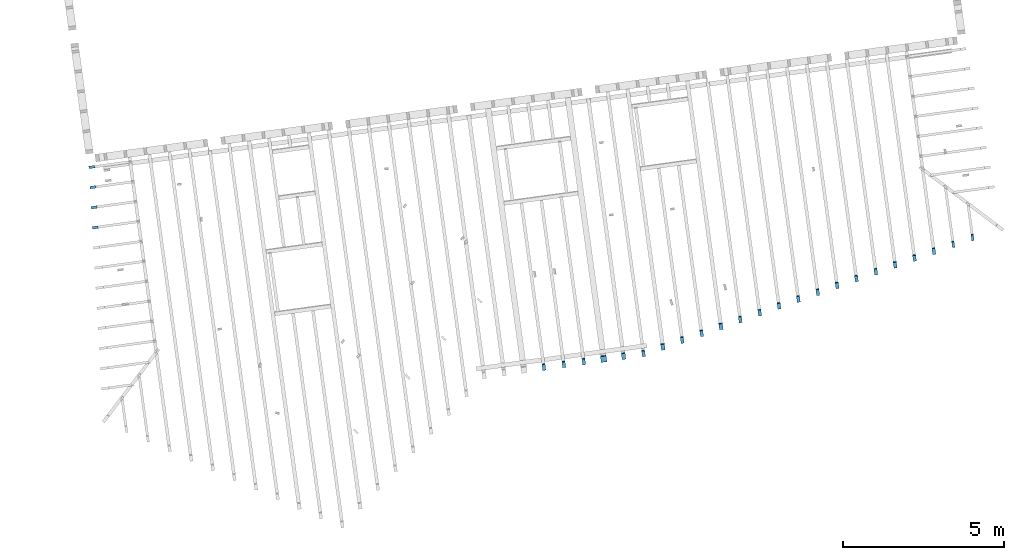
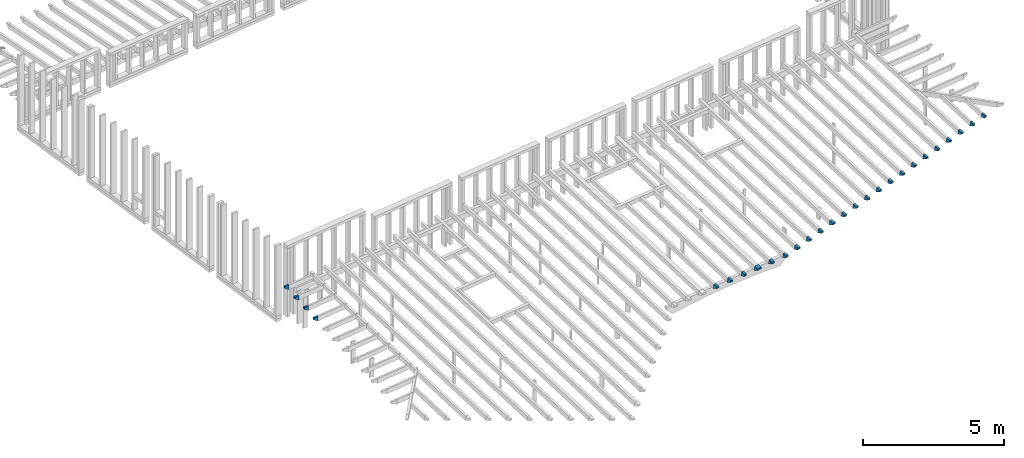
# One storey, part 13 of 16: 27 building element parts, 27 elements without a shape of their own.
"""IFC2X3 building model written with IfcOpenShell, lengths in metres."""

from ifc_helpers import new_model, entity, si_unit, converted_unit, derived_unit, money_unit, direction, frame, origin_with_axes, place, context, subcontext, project, spatial, faceted_brep, material, type_object, element, aggregate, save


model = new_model("IFC2X3")

# Units and contexts
model_context = context("Model", 3, precision=1e-05, world=origin_with_axes(), true_north=direction((0.0, 1.0)))
body_context = subcontext(model_context, "Body", "Model", "MODEL_VIEW")
ifc_project = project(units=[si_unit("LENGTHUNIT", "METRE"), si_unit("AREAUNIT", "SQUARE_METRE"), si_unit("VOLUMEUNIT", "CUBIC_METRE"), converted_unit("PLANEANGLEUNIT", "DEGREE", entity("IfcPlaneAngleMeasure", 0.0174532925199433), si_unit("PLANEANGLEUNIT", "RADIAN"), dimensions=[0, 0, 0, 0, 0, 0, 0]), money_unit("EUR"), converted_unit("TIMEUNIT", "Year", entity("IfcTimeMeasure", 31557600.0), si_unit("TIMEUNIT", "SECOND"), dimensions=[0, 0, 1, 0, 0, 0, 0]), si_unit("MASSUNIT", "GRAM", prefix="KILO"), si_unit("THERMODYNAMICTEMPERATUREUNIT", "DEGREE_CELSIUS"), si_unit("LUMINOUSINTENSITYUNIT", "LUMEN"), si_unit("ENERGYUNIT", "JOULE", prefix="MEGA"), derived_unit("THERMALCONDUCTANCEUNIT", [(si_unit("POWERUNIT", "WATT"), 1), (si_unit("LENGTHUNIT", "METRE"), -1), (si_unit("THERMODYNAMICTEMPERATUREUNIT", "KELVIN"), -1)]), derived_unit("SPECIFICHEATCAPACITYUNIT", [(si_unit("ENERGYUNIT", "JOULE"), 1), (si_unit("MASSUNIT", "GRAM", prefix="KILO"), -1), (si_unit("THERMODYNAMICTEMPERATUREUNIT", "KELVIN"), -1)]), derived_unit("MASSDENSITYUNIT", [(si_unit("MASSUNIT", "GRAM", prefix="KILO"), 1), (si_unit("VOLUMEUNIT", "CUBIC_METRE"), -1)])], contexts=[model_context])

# Site, building, storey
site_placement = place(None, origin_with_axes())
site = spatial("IfcSite", under=ifc_project, at=site_placement, Name="Gelände", CompositionType="ELEMENT")
building_placement = place(site_placement, origin_with_axes())
building = spatial("IfcBuilding", under=site, at=building_placement, Name="Gebäude", CompositionType="ELEMENT")
storey_placement = place(building_placement, frame((0.0, 0.0, 3.0), z_axis=(0.0, 0.0, 1.0), x_axis=(1.0, 0.0, 0.0)))
storey = spatial("IfcBuildingStorey", under=building, at=storey_placement, Name="ZG", CompositionType="ELEMENT", Elevation=3.0)

# Beam, building element part
beam_type_1 = type_object("IfcBeamType", Name="Verschiedene Strukturen - 2 Segmente - 80 x 200 x 1447 (182+1264)", PredefinedType="NOTDEFINED")
beam_1_placement = place(storey_placement, frame((86.62140149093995, -152.5379371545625, 1.629738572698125), z_axis=(0.0, 0.0, 1.0), x_axis=(0.1357118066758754, -0.9907483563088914, 0.0)))
beam_1 = element("IfcBeam", 1, at=beam_1_placement, inside=storey, type_object=beam_type_1, Name="Unterzug-034")
ifc_material = material(Name="Holz, Bauholz-hart")
building_element_part_1_placement = place(beam_1_placement, origin_with_axes())
building_element_part_1 = element("IfcBuildingElementPart", 2, at=building_element_part_1_placement, material=ifc_material, Name="Holz, Bauholz-hart", context=body_context, shape_type="Brep", body=[
    faceted_brep([(0.04000000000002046, 0.1824875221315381, -0.2000000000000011), (0.04000000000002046, 0.0, -0.0799999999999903), (-0.03999999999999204, 0.0, -0.0799999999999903), (-0.03999999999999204, 0.1824875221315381, -0.2000000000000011), (0.04000000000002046, 0.1824875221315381, 0.0), (0.04000000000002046, 0.0, 0.0), (-0.03999999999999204, 0.0, 0.0), (-0.03999999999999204, 0.1824875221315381, 0.0)], [[[0, 1, 2, 3]], [[4, 5, 1, 0]], [[5, 6, 2, 1]], [[3, 2, 6, 7]], [[4, 0, 3, 7]], [[7, 6, 5, 4]]]),
])
aggregate(beam_1, [building_element_part_1])

beam_type_2 = type_object("IfcBeamType", Name="Verschiedene Strukturen - 2 Segmente - 100 x 200 x 5298 (183+5116)", PredefinedType="NOTDEFINED")
beam_2_placement = place(storey_placement, frame((100.7094401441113, -157.5921510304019, 0.6572859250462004), z_axis=(0.0, 0.0, 1.0), x_axis=(0.9907484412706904, 0.1357111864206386, 0.0)))
beam_2 = element("IfcBeam", 3, at=beam_2_placement, inside=storey, type_object=beam_type_2, Name="Unterzug-034")
building_element_part_2_placement = place(beam_2_placement, origin_with_axes())
building_element_part_2 = element("IfcBuildingElementPart", 4, at=building_element_part_2_placement, material=ifc_material, Name="Holz, Bauholz-hart", context=body_context, shape_type="Brep", body=[
    faceted_brep([(0.05000000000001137, 0.2085658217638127, -0.172653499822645), (0.04999999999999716, 0.01113384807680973, -0.07922144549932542), (-0.04999999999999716, 0.01113384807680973, -0.07922144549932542), (-0.05000000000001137, 0.2085658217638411, -0.172653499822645), (0.04999999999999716, 0.180731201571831, 0.02540011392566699), (0.05000000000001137, 0.0, 0.0), (-0.04999999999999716, 0.0, 0.0), (-0.04999999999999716, 0.180731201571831, 0.02540011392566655)], [[[0, 1, 2, 3]], [[4, 5, 1, 0]], [[5, 6, 2, 1]], [[3, 2, 6, 7]], [[4, 0, 3, 7]], [[7, 6, 5, 4]]]),
])
aggregate(beam_2, [building_element_part_2])

beam_type_3 = type_object("IfcBeamType", Name="Verschiedene Strukturen - 2 Segmente - 100 x 200 x 6565 (183+6383)", PredefinedType="NOTDEFINED")
beam_3_placement = place(storey_placement, frame((112.2308280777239, -154.2011051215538, 0.9097103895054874), z_axis=(0.0, 0.0, 1.0), x_axis=(0.9907484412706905, 0.1357111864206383, 0.0)))
beam_3 = element("IfcBeam", 5, at=beam_3_placement, inside=storey, type_object=beam_type_3, Name="Unterzug-034")
building_element_part_3_placement = place(beam_3_placement, origin_with_axes())
building_element_part_3 = element("IfcBuildingElementPart", 6, at=building_element_part_3_placement, material=ifc_material, Name="Holz, Bauholz-hart", context=body_context, shape_type="Brep", body=[
    faceted_brep([(0.04999999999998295, 0.2085613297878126, -0.1726541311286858), (0.04999999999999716, 0.01113384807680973, -0.07922144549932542), (-0.05000000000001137, 0.01113384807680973, -0.07922144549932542), (-0.04999999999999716, 0.2085613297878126, -0.1726541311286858), (0.04999999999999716, 0.1807267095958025, 0.02539948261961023), (0.04999999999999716, 0.0, 0.0), (-0.05000000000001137, 0.0, 0.0), (-0.04999999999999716, 0.1807267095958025, 0.02539948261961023)], [[[0, 1, 2, 3]], [[4, 5, 1, 0]], [[5, 6, 2, 1]], [[3, 2, 6, 7]], [[4, 0, 3, 7]], [[7, 6, 5, 4]]]),
])
aggregate(beam_3, [building_element_part_3])

beam_type_4 = type_object("IfcBeamType", Name="Verschiedene Strukturen - 2 Segmente - 100 x 200 x 6826 (183+6643)", PredefinedType="NOTDEFINED")
beam_4_placement = place(storey_placement, frame((111.0273840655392, -154.6261969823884, 0.8734735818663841), z_axis=(0.0, 0.0, 1.0), x_axis=(0.9907484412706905, 0.1357111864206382, 0.0)))
beam_4 = element("IfcBeam", 7, at=beam_4_placement, inside=storey, type_object=beam_type_4, Name="Unterzug-034")
building_element_part_4_placement = place(beam_4_placement, origin_with_axes())
building_element_part_4 = element("IfcBuildingElementPart", 8, at=building_element_part_4_placement, material=ifc_material, Name="Holz, Bauholz-hart", context=body_context, shape_type="Brep", body=[
    faceted_brep([(0.04999999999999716, 0.2085613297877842, -0.1726541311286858), (0.04999999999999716, 0.01113384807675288, -0.07922144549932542), (-0.05000000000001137, 0.01113384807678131, -0.07922144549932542), (-0.04999999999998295, 0.2085613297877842, -0.1726541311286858), (0.05000000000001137, 0.1807267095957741, 0.02539948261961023), (0.05000000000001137, 0.0, 0.0), (-0.05000000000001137, 0.0, 0.0), (-0.05000000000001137, 0.1807267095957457, 0.02539948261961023)], [[[0, 1, 2, 3]], [[4, 5, 1, 0]], [[5, 6, 2, 1]], [[3, 2, 6, 7]], [[4, 0, 3, 7]], [[7, 6, 5, 4]]]),
])
aggregate(beam_4, [building_element_part_4])

beam_type_5 = type_object("IfcBeamType", Name="Verschiedene Strukturen - 2 Segmente - 100 x 200 x 6696 (183+6513)", PredefinedType="NOTDEFINED")
beam_5_placement = place(storey_placement, frame((111.6291060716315, -154.4136510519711, 0.8915919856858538), z_axis=(0.0, 0.0, 1.0), x_axis=(0.9907484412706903, 0.1357111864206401, 0.0)))
beam_5 = element("IfcBeam", 9, at=beam_5_placement, inside=storey, type_object=beam_type_5, Name="Unterzug-034")
building_element_part_5_placement = place(beam_5_placement, origin_with_axes())
building_element_part_5 = element("IfcBuildingElementPart", 10, at=building_element_part_5_placement, material=ifc_material, Name="Holz, Bauholz-hart", context=body_context, shape_type="Brep", body=[
    faceted_brep([(0.04999999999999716, 0.208561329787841, -0.1726541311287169), (0.05000000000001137, 0.01113384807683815, -0.07922144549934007), (-0.05000000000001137, 0.01113384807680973, -0.07922144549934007), (-0.04999999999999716, 0.208561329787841, -0.1726541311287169), (0.04999999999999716, 0.1807267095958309, 0.02539948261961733), (0.05000000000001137, 0.0, 0.0), (-0.05000000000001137, 0.0, 0.0), (-0.05000000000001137, 0.1807267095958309, 0.02539948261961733)], [[[0, 1, 2, 3]], [[4, 5, 1, 0]], [[5, 6, 2, 1]], [[3, 2, 6, 7]], [[4, 0, 3, 7]], [[7, 6, 5, 4]]]),
])
aggregate(beam_5, [building_element_part_5])

beam_type_6 = type_object("IfcBeamType", Name="Verschiedene Strukturen - 2 Segmente - 100 x 200 x 6435 (183+6253)", PredefinedType="NOTDEFINED")
beam_6_placement = place(storey_placement, frame((112.8325500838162, -153.9885591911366, 0.9278287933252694), z_axis=(0.0, 0.0, 1.0), x_axis=(0.9907484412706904, 0.1357111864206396, 0.0)))
beam_6 = element("IfcBeam", 11, at=beam_6_placement, inside=storey, type_object=beam_type_6, Name="Unterzug-034")
building_element_part_6_placement = place(beam_6_placement, origin_with_axes())
building_element_part_6 = element("IfcBuildingElementPart", 12, at=building_element_part_6_placement, material=ifc_material, Name="Holz, Bauholz-hart", context=body_context, shape_type="Brep", body=[
    faceted_brep([(0.04999999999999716, 0.2085613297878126, -0.1726541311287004), (0.04999999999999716, 0.01113384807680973, -0.07922144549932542), (-0.05000000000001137, 0.01113384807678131, -0.07922144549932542), (-0.04999999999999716, 0.2085613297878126, -0.1726541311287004), (0.04999999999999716, 0.1807267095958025, 0.02539948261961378), (0.04999999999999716, 0.0, 0.0), (-0.04999999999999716, 0.0, 0.0), (-0.04999999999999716, 0.1807267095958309, 0.02539948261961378)], [[[0, 1, 2, 3]], [[4, 5, 1, 0]], [[5, 6, 2, 1]], [[3, 2, 6, 7]], [[4, 0, 3, 7]], [[7, 6, 5, 4]]]),
])
aggregate(beam_6, [building_element_part_6])

beam_type_7 = type_object("IfcBeamType", Name="Verschiedene Strukturen - 2 Segmente - 80 x 200 x 1968 (183+1786)", PredefinedType="NOTDEFINED")
beam_7_placement = place(storey_placement, frame((113.4342720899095, -153.776013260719, 0.9459471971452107), z_axis=(0.0, 0.0, 1.0), x_axis=(0.99074844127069, 0.1357111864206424, 0.0)))
beam_7 = element("IfcBeam", 13, at=beam_7_placement, inside=storey, type_object=beam_type_7, Name="Unterzug-034")
building_element_part_7_placement = place(beam_7_placement, origin_with_axes())
building_element_part_7 = element("IfcBuildingElementPart", 14, at=building_element_part_7_placement, material=ifc_material, Name="Holz, Bauholz-hart", context=body_context, shape_type="Brep", body=[
    faceted_brep([(0.03999999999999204, 0.2085613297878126, -0.172654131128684), (0.03999999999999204, 0.01113384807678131, -0.07922144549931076), (-0.04000000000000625, 0.01113384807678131, -0.07922144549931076), (-0.03999999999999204, 0.2085613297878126, -0.172654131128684), (0.03999999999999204, 0.1807267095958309, 0.02539948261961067), (0.03999999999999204, 0.0, 0.0), (-0.04000000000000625, 0.0, 0.0), (-0.03999999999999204, 0.1807267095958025, 0.02539948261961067)], [[[0, 1, 2, 3]], [[4, 5, 1, 0]], [[5, 6, 2, 1]], [[3, 2, 6, 7]], [[4, 0, 3, 7]], [[7, 6, 5, 4]]]),
])
aggregate(beam_7, [building_element_part_7])

beam_type_8 = type_object("IfcBeamType", Name="Verschiedene Strukturen - 2 Segmente - 100 x 200 x 6969 (183+6786)", PredefinedType="NOTDEFINED")
beam_8_placement = place(storey_placement, frame((110.4256620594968, -154.83874291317, 0.8553551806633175), z_axis=(0.0, 0.0, 1.0), x_axis=(0.9907484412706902, 0.1357111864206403, 0.0)))
beam_8 = element("IfcBeam", 15, at=beam_8_placement, inside=storey, type_object=beam_type_8, Name="Unterzug-034")
building_element_part_8_placement = place(beam_8_placement, origin_with_axes())
building_element_part_8 = element("IfcBuildingElementPart", 16, at=building_element_part_8_placement, material=ifc_material, Name="Holz, Bauholz-hart", context=body_context, shape_type="Brep", body=[
    faceted_brep([(0.04999999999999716, 0.208561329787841, -0.1726541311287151), (0.05000000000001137, 0.01113384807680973, -0.07922144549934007), (-0.05000000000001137, 0.01113384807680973, -0.07922144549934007), (-0.04999999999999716, 0.208561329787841, -0.1726541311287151), (0.04999999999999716, 0.1807267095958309, 0.02539948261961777), (0.05000000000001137, 0.0, 0.0), (-0.05000000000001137, 0.0, 0.0), (-0.04999999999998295, 0.1807267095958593, 0.02539948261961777)], [[[0, 1, 2, 3]], [[4, 5, 1, 0]], [[5, 6, 2, 1]], [[3, 2, 6, 7]], [[4, 0, 3, 7]], [[7, 6, 5, 4]]]),
])
aggregate(beam_8, [building_element_part_8])

beam_type_9 = type_object("IfcBeamType", Name="Verschiedene Strukturen - 2 Segmente - 100 x 200 x 7099 (183+6916)", PredefinedType="NOTDEFINED")
beam_9_placement = place(storey_placement, frame((109.8239400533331, -155.0512888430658, 0.8372367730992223), z_axis=(0.0, 0.0, 1.0), x_axis=(0.99074844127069, 0.135711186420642, 0.0)))
beam_9 = element("IfcBeam", 17, at=beam_9_placement, inside=storey, type_object=beam_type_9, Name="Unterzug-034")
building_element_part_9_placement = place(beam_9_placement, origin_with_axes())
building_element_part_9 = element("IfcBuildingElementPart", 18, at=building_element_part_9_placement, material=ifc_material, Name="Holz, Bauholz-hart", context=body_context, shape_type="Brep", body=[
    faceted_brep([(0.04999999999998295, 0.208561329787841, -0.1726541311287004), (0.04999999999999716, 0.01113384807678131, -0.07922144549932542), (-0.05000000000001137, 0.01113384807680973, -0.07922144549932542), (-0.05000000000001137, 0.208561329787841, -0.1726541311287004), (0.04999999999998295, 0.1807267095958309, 0.02539948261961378), (0.04999999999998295, 0.0, 0.0), (-0.05000000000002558, 0.0, 0.0), (-0.05000000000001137, 0.1807267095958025, 0.02539948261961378)], [[[0, 1, 2, 3]], [[4, 5, 1, 0]], [[5, 6, 2, 1]], [[3, 2, 6, 7]], [[4, 0, 3, 7]], [[7, 6, 5, 4]]]),
])
aggregate(beam_9, [building_element_part_9])

beam_type_10 = type_object("IfcBeamType", Name="Verschiedene Strukturen - 2 Segmente - 100 x 200 x 7359 (183+7177)", PredefinedType="NOTDEFINED")
beam_10_placement = place(storey_placement, frame((108.6204960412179, -155.4763807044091, 0.8009999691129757), z_axis=(0.0, 0.0, 1.0), x_axis=(0.9907484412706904, 0.1357111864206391, 0.0)))
beam_10 = element("IfcBeam", 19, at=beam_10_placement, inside=storey, type_object=beam_type_10, Name="Unterzug-034")
building_element_part_10_placement = place(beam_10_placement, origin_with_axes())
building_element_part_10 = element("IfcBuildingElementPart", 20, at=building_element_part_10_placement, material=ifc_material, Name="Holz, Bauholz-hart", context=body_context, shape_type="Brep", body=[
    faceted_brep([(0.04999999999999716, 0.2085613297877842, -0.172654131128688), (0.04999999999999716, 0.01113384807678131, -0.07922144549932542), (-0.04999999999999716, 0.01113384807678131, -0.07922144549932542), (-0.04999999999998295, 0.2085613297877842, -0.172654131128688), (0.05000000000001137, 0.1807267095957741, 0.02539948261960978), (0.05000000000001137, 0.0, 0.0), (-0.04999999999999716, 0.0, 0.0), (-0.04999999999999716, 0.1807267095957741, 0.02539948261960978)], [[[0, 1, 2, 3]], [[4, 5, 1, 0]], [[5, 6, 2, 1]], [[3, 2, 6, 7]], [[4, 0, 3, 7]], [[7, 6, 5, 4]]]),
])
aggregate(beam_10, [building_element_part_10])

beam_type_11 = type_object("IfcBeamType", Name="Verschiedene Strukturen - 2 Segmente - 100 x 200 x 7489 (183+7307)", PredefinedType="NOTDEFINED")
beam_11_placement = place(storey_placement, frame((108.0187740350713, -155.6889266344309, 0.782881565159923), z_axis=(0.0, 0.0, 1.0), x_axis=(0.9907484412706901, 0.1357111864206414, 0.0)))
beam_11 = element("IfcBeam", 21, at=beam_11_placement, inside=storey, type_object=beam_type_11, Name="Unterzug-034")
building_element_part_11_placement = place(beam_11_placement, origin_with_axes())
building_element_part_11 = element("IfcBuildingElementPart", 22, at=building_element_part_11_placement, material=ifc_material, Name="Holz, Bauholz-hart", context=body_context, shape_type="Brep", body=[
    faceted_brep([(0.04999999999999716, 0.2085613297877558, -0.1726541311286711), (0.05000000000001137, 0.01113384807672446, -0.07922144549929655), (-0.05000000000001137, 0.01113384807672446, -0.07922144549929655), (-0.05000000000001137, 0.2085613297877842, -0.1726541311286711), (0.04999999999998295, 0.1807267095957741, 0.02539948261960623), (0.04999999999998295, 0.0, 0.0), (-0.05000000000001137, 0.0, 0.0), (-0.05000000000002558, 0.1807267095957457, 0.02539948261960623)], [[[0, 1, 2, 3]], [[4, 5, 1, 0]], [[5, 6, 2, 1]], [[3, 2, 6, 7]], [[4, 0, 3, 7]], [[7, 6, 5, 4]]]),
])
aggregate(beam_11, [building_element_part_11])

beam_type_12 = type_object("IfcBeamType", Name="Verschiedene Strukturen - 2 Segmente - 100 x 200 x 7620 (183+7437)", PredefinedType="NOTDEFINED")
beam_12_placement = place(storey_placement, frame((107.4170520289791, -155.9014725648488, 0.7647631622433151), z_axis=(0.0, 0.0, 1.0), x_axis=(0.9907484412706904, 0.1357111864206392, 0.0)))
beam_12 = element("IfcBeam", 23, at=beam_12_placement, inside=storey, type_object=beam_type_12, Name="Unterzug-034")
building_element_part_12_placement = place(beam_12_placement, origin_with_axes())
building_element_part_12 = element("IfcBuildingElementPart", 24, at=building_element_part_12_placement, material=ifc_material, Name="Holz, Bauholz-hart", context=body_context, shape_type="Brep", body=[
    faceted_brep([(0.05000000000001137, 0.208561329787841, -0.1726541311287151), (0.05000000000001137, 0.01113384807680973, -0.07922144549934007), (-0.04999999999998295, 0.01113384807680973, -0.07922144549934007), (-0.04999999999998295, 0.208561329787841, -0.1726541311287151), (0.05000000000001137, 0.1807267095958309, 0.02539948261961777), (0.05000000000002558, 0.0, 0.0), (-0.04999999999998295, 0.0, 0.0), (-0.04999999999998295, 0.1807267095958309, 0.02539948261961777)], [[[0, 1, 2, 3]], [[4, 5, 1, 0]], [[5, 6, 2, 1]], [[3, 2, 6, 7]], [[4, 0, 3, 7]], [[7, 6, 5, 4]]]),
])
aggregate(beam_12, [building_element_part_12])

beam_type_13 = type_object("IfcBeamType", Name="Verschiedene Strukturen - 2 Segmente - 100 x 200 x 7750 (183+7567)", PredefinedType="NOTDEFINED")
beam_13_placement = place(storey_placement, frame((106.815330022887, -156.1140184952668, 0.7466447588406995), z_axis=(0.0, 0.0, 1.0), x_axis=(0.9907484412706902, 0.1357111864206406, 0.0)))
beam_13 = element("IfcBeam", 25, at=beam_13_placement, inside=storey, type_object=beam_type_13, Name="Unterzug-034")
building_element_part_13_placement = place(beam_13_placement, origin_with_axes())
building_element_part_13 = element("IfcBuildingElementPart", 26, at=building_element_part_13_placement, material=ifc_material, Name="Holz, Bauholz-hart", context=body_context, shape_type="Brep", body=[
    faceted_brep([(0.04999999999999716, 0.208561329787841, -0.1726541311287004), (0.04999999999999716, 0.01113384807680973, -0.07922144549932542), (-0.05000000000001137, 0.01113384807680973, -0.07922144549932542), (-0.05000000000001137, 0.208561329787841, -0.1726541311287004), (0.04999999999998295, 0.1807267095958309, 0.02539948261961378), (0.04999999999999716, 0.0, 0.0), (-0.04999999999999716, 0.0, 0.0), (-0.04999999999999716, 0.1807267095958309, 0.02539948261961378)], [[[0, 1, 2, 3]], [[4, 5, 1, 0]], [[5, 6, 2, 1]], [[3, 2, 6, 7]], [[4, 0, 3, 7]], [[7, 6, 5, 4]]]),
])
aggregate(beam_13, [building_element_part_13])

beam_type_14 = type_object("IfcBeamType", Name="Verschiedene Strukturen - 2 Segmente - 100 x 200 x 7229 (183+7046)", PredefinedType="NOTDEFINED")
beam_14_placement = place(storey_placement, frame((109.2222180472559, -155.2638347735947, 0.8191183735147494), z_axis=(0.0, 0.0, 1.0), x_axis=(0.9907484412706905, 0.1357111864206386, 0.0)))
beam_14 = element("IfcBeam", 27, at=beam_14_placement, inside=storey, type_object=beam_type_14, Name="Unterzug-034")
building_element_part_14_placement = place(beam_14_placement, origin_with_axes())
building_element_part_14 = element("IfcBuildingElementPart", 28, at=building_element_part_14_placement, material=ifc_material, Name="Holz, Bauholz-hart", context=body_context, shape_type="Brep", body=[
    faceted_brep([(0.04999999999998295, 0.2085613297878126, -0.1726541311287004), (0.04999999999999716, 0.01113384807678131, -0.07922144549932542), (-0.05000000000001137, 0.01113384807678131, -0.07922144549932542), (-0.05000000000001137, 0.208561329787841, -0.1726541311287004), (0.04999999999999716, 0.1807267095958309, 0.02539948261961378), (0.04999999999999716, 0.0, 0.0), (-0.05000000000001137, 0.0, 0.0), (-0.04999999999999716, 0.1807267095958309, 0.02539948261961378)], [[[0, 1, 2, 3]], [[4, 5, 1, 0]], [[5, 6, 2, 1]], [[3, 2, 6, 7]], [[4, 0, 3, 7]], [[7, 6, 5, 4]]]),
])
aggregate(beam_14, [building_element_part_14])

beam_type_15 = type_object("IfcBeamType", Name="Verschiedene Strukturen - 2 Segmente - 120 x 200 x 7880 (183+7697)", PredefinedType="NOTDEFINED")
beam_15_placement = place(storey_placement, frame((106.2136080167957, -156.3265644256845, 0.7285258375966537), z_axis=(0.0, 0.0, 1.0), x_axis=(0.9907484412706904, 0.1357111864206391, 0.0)))
beam_15 = element("IfcBeam", 29, at=beam_15_placement, inside=storey, type_object=beam_type_15, Name="Unterzug-034")
building_element_part_15_placement = place(beam_15_placement, origin_with_axes())
building_element_part_15 = element("IfcBuildingElementPart", 30, at=building_element_part_15_placement, material=ifc_material, Name="Holz, Bauholz-hart", context=body_context, shape_type="Brep", body=[
    faceted_brep([(0.06000000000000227, 0.2085613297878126, -0.172654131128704), (0.06000000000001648, 0.01113384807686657, -0.07922144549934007), (-0.06000000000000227, 0.01113384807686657, -0.07922144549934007), (-0.05999999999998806, 0.2085613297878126, -0.172654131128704), (0.06000000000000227, 0.1807267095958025, 0.02539948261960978), (0.06000000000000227, 0.0, 0.0), (-0.06000000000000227, 0.0, 0.0), (-0.06000000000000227, 0.1807267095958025, 0.02539948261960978)], [[[0, 1, 2, 3]], [[4, 5, 1, 0]], [[5, 6, 2, 1]], [[3, 2, 6, 7]], [[4, 0, 3, 7]], [[7, 6, 5, 4]]]),
])
aggregate(beam_15, [building_element_part_15])

beam_type_16 = type_object("IfcBeamType", Name="Verschiedene Strukturen - 2 Segmente - 100 x 200 x 5542 (183+5359)", PredefinedType="NOTDEFINED")
beam_16_placement = place(storey_placement, frame((105.0101640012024, -156.7516562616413, 0.6922893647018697), z_axis=(0.0, 0.0, 1.0), x_axis=(0.9907484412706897, 0.1357111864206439, 0.0)))
beam_16 = element("IfcBeam", 31, at=beam_16_placement, inside=storey, type_object=beam_type_16, Name="Unterzug-034")
building_element_part_16_placement = place(beam_16_placement, origin_with_axes())
building_element_part_16 = element("IfcBuildingElementPart", 32, at=building_element_part_16_placement, material=ifc_material, Name="Holz, Bauholz-hart", context=body_context, shape_type="Brep", body=[
    faceted_brep([(0.05000000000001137, 0.2085613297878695, -0.1726541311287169), (0.05000000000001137, 0.01113384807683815, -0.07922144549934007), (-0.04999999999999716, 0.01113384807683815, -0.07922144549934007), (-0.04999999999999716, 0.2085613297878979, -0.1726541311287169), (0.04999999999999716, 0.1807267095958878, 0.02539948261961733), (0.05000000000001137, 0.0, 0.0), (-0.04999999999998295, 0.0, 0.0), (-0.04999999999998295, 0.1807267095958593, 0.02539948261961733)], [[[0, 1, 2, 3]], [[4, 5, 1, 0]], [[5, 6, 2, 1]], [[3, 2, 6, 7]], [[4, 0, 3, 7]], [[7, 6, 5, 4]]]),
])
aggregate(beam_16, [building_element_part_16])

beam_17_placement = place(storey_placement, frame((101.3286579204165, -157.5073315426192, 0.6572859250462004), z_axis=(0.0, 0.0, 1.0), x_axis=(0.9907484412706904, 0.1357111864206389, 0.0)))
beam_17 = element("IfcBeam", 33, at=beam_17_placement, inside=storey, type_object=beam_type_2, Name="Unterzug-034")
building_element_part_17_placement = place(beam_17_placement, origin_with_axes())
building_element_part_17 = element("IfcBuildingElementPart", 34, at=building_element_part_17_placement, material=ifc_material, Name="Holz, Bauholz-hart", context=body_context, shape_type="Brep", body=[
    faceted_brep([(0.05000000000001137, 0.2085658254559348, -0.1726534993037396), (0.05000000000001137, 0.01113384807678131, -0.07922144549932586), (-0.05000000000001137, 0.01113384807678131, -0.07922144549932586), (-0.04999999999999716, 0.2085658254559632, -0.1726534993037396), (0.04999999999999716, 0.1807312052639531, 0.02540011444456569), (0.05000000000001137, 0.0, 0.0), (-0.04999999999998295, 0.0, 0.0), (-0.04999999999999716, 0.1807312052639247, 0.02540011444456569)], [[[0, 1, 2, 3]], [[4, 5, 1, 0]], [[5, 6, 2, 1]], [[3, 2, 6, 7]], [[4, 0, 3, 7]], [[7, 6, 5, 4]]]),
])
aggregate(beam_17, [building_element_part_17])

beam_type_17 = type_object("IfcBeamType", Name="Verschiedene Strukturen - 2 Segmente - 100 x 200 x 5325 (183+5143)", PredefinedType="NOTDEFINED")
beam_18_placement = place(storey_placement, frame((101.947875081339, -157.4225075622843, 0.6572859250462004), z_axis=(0.0, 0.0, 1.0), x_axis=(0.9907484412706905, 0.1357111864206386, 0.0)))
beam_18 = element("IfcBeam", 35, at=beam_18_placement, inside=storey, type_object=beam_type_17, Name="Unterzug-034")
building_element_part_18_placement = place(beam_18_placement, origin_with_axes())
building_element_part_18 = element("IfcBuildingElementPart", 36, at=building_element_part_18_placement, material=ifc_material, Name="Holz, Bauholz-hart", context=body_context, shape_type="Brep", body=[
    faceted_brep([(0.04999999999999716, 0.2085613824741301, -0.1726541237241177), (0.04999999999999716, 0.01113384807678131, -0.07922144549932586), (-0.04999999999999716, 0.01113384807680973, -0.07922144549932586), (-0.05000000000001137, 0.2085613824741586, -0.1726541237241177), (0.04999999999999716, 0.1807267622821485, 0.02539949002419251), (0.05000000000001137, 0.0, 0.0), (-0.04999999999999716, 0.0, 0.0), (-0.04999999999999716, 0.18072676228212, 0.02539949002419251)], [[[0, 1, 2, 3]], [[4, 5, 1, 0]], [[5, 6, 2, 1]], [[3, 2, 6, 7]], [[4, 0, 3, 7]], [[7, 6, 5, 4]]]),
])
aggregate(beam_18, [building_element_part_18])

beam_type_18 = type_object("IfcBeamType", Name="Verschiedene Strukturen - 2 Segmente - 100 x 200 x 5412 (183+5229)", PredefinedType="NOTDEFINED")
beam_19_placement = place(storey_placement, frame((105.6118860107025, -156.5391103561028, 0.7104075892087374), z_axis=(0.0, 0.0, 1.0), x_axis=(0.9907484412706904, 0.1357111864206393, 0.0)))
beam_19 = element("IfcBeam", 37, at=beam_19_placement, inside=storey, type_object=beam_type_18, Name="Unterzug-034")
building_element_part_19_placement = place(beam_19_placement, origin_with_axes())
building_element_part_19 = element("IfcBuildingElementPart", 38, at=building_element_part_19_placement, material=ifc_material, Name="Holz, Bauholz-hart", context=body_context, shape_type="Brep", body=[
    faceted_brep([(0.04999999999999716, 0.2085613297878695, -0.1726541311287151), (0.04999999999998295, 0.01113384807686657, -0.07922144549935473), (-0.04999999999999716, 0.01113384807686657, -0.07922144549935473), (-0.04999999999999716, 0.208561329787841, -0.1726541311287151), (0.04999999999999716, 0.1807267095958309, 0.02539948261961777), (0.04999999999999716, 0.0, 0.0), (-0.04999999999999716, 0.0, 0.0), (-0.04999999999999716, 0.1807267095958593, 0.02539948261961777)], [[[0, 1, 2, 3]], [[4, 5, 1, 0]], [[5, 6, 2, 1]], [[3, 2, 6, 7]], [[4, 0, 3, 7]], [[7, 6, 5, 4]]]),
])
aggregate(beam_19, [building_element_part_19])

beam_type_19 = type_object("IfcBeamType", Name="Verschiedene Strukturen - 2 Segmente - 80 x 200 x 1207 (183+1024)", PredefinedType="NOTDEFINED")
beam_20_placement = place(storey_placement, frame((114.0359940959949, -153.5634673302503, 0.9640656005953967), z_axis=(0.0, 0.0, 1.0), x_axis=(0.9907484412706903, 0.1357111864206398, 0.0)))
beam_20 = element("IfcBeam", 39, at=beam_20_placement, inside=storey, type_object=beam_type_19, Name="Unterzug-034")
building_element_part_20_placement = place(beam_20_placement, origin_with_axes())
building_element_part_20 = element("IfcBuildingElementPart", 40, at=building_element_part_20_placement, material=ifc_material, Name="Holz, Bauholz-hart", context=body_context, shape_type="Brep", body=[
    faceted_brep([(0.03999999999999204, 0.2085613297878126, -0.1726541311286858), (0.03999999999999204, 0.01113384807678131, -0.07922144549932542), (-0.04000000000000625, 0.01113384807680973, -0.07922144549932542), (-0.03999999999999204, 0.2085613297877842, -0.1726541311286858), (0.04000000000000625, 0.1807267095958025, 0.02539948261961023), (0.04000000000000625, 0.0, 0.0), (-0.04000000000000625, 0.0, 0.0), (-0.03999999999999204, 0.1807267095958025, 0.02539948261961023)], [[[0, 1, 2, 3]], [[4, 5, 1, 0]], [[5, 6, 2, 1]], [[3, 2, 6, 7]], [[4, 0, 3, 7]], [[7, 6, 5, 4]]]),
])
aggregate(beam_20, [building_element_part_20])

beam_type_20 = type_object("IfcBeamType", Name="Verschiedene Strukturen - 2 Segmente - 100 x 200 x 8392 (183+8209)", PredefinedType="NOTDEFINED")
beam_21_placement = place(storey_placement, frame((103.8055289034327, -157.1680526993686, 0.6572862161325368), z_axis=(0.0, 0.0, 1.0), x_axis=(0.9907484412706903, 0.1357111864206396, 0.0)))
beam_21 = element("IfcBeam", 41, at=beam_21_placement, inside=storey, type_object=beam_type_20, Name="Unterzug-034")
building_element_part_21_placement = place(beam_21_placement, origin_with_axes())
building_element_part_21 = element("IfcBuildingElementPart", 42, at=building_element_part_21_placement, material=ifc_material, Name="Holz, Bauholz-hart", context=body_context, shape_type="Brep", body=[
    faceted_brep([(0.04999999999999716, 0.2085649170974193, -0.1726536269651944), (0.04999999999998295, 0.01113384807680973, -0.07922144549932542), (-0.05000000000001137, 0.01113384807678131, -0.07922144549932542), (-0.05000000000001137, 0.2085649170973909, -0.1726536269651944), (0.04999999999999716, 0.1807302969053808, 0.0253999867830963), (0.04999999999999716, 0.0, 0.0), (-0.05000000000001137, 0.0, 0.0), (-0.05000000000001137, 0.1807302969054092, 0.0253999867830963)], [[[0, 1, 2, 3]], [[4, 5, 1, 0]], [[5, 6, 2, 1]], [[3, 2, 6, 7]], [[4, 0, 3, 7]], [[7, 6, 5, 4]]]),
])
aggregate(beam_21, [building_element_part_21])

beam_type_21 = type_object("IfcBeamType", Name="Verschiedene Strukturen - 2 Segmente - 180 x 200 x 8379 (183+8197)", PredefinedType="NOTDEFINED")
beam_22_placement = place(storey_placement, frame((102.5670934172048, -157.3376921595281, 0.6572859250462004), z_axis=(0.0, 0.0, 1.0), x_axis=(0.9907484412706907, 0.1357111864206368, 0.0)))
beam_22 = element("IfcBeam", 43, at=beam_22_placement, inside=storey, type_object=beam_type_21, Name="Unterzug-034")
building_element_part_22_placement = place(beam_22_placement, origin_with_axes())
building_element_part_22 = element("IfcBuildingElementPart", 44, at=building_element_part_22_placement, material=ifc_material, Name="Holz, Bauholz-hart", context=body_context, shape_type="Brep", body=[
    faceted_brep([(0.09000000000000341, 0.2085654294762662, -0.1726535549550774), (0.0899999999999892, 0.01113384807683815, -0.07922144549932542), (-0.0899999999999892, 0.01113384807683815, -0.07922144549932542), (-0.09000000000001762, 0.2085654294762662, -0.1726535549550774), (0.0899999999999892, 0.1807308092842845, 0.02540005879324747), (0.09000000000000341, 0.0, 0.0), (-0.09000000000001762, 0.0, 0.0), (-0.09000000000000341, 0.1807308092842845, 0.02540005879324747)], [[[0, 1, 2, 3]], [[4, 5, 1, 0]], [[5, 6, 2, 1]], [[3, 2, 6, 7]], [[4, 0, 3, 7]], [[7, 6, 5, 4]]]),
])
aggregate(beam_22, [building_element_part_22])

beam_type_22 = type_object("IfcBeamType", Name="Verschiedene Strukturen - 2 Segmente - 120 x 200 x 8270 (183+8088)", PredefinedType="NOTDEFINED")
beam_23_placement = place(storey_placement, frame((104.4084419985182, -156.9642022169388, 0.674171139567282), z_axis=(0.0, 0.0, 1.0), x_axis=(0.9907484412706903, 0.1357111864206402, 0.0)))
beam_23 = element("IfcBeam", 45, at=beam_23_placement, inside=storey, type_object=beam_type_22, Name="Unterzug-034")
building_element_part_23_placement = place(beam_23_placement, origin_with_axes())
building_element_part_23 = element("IfcBuildingElementPart", 46, at=building_element_part_23_placement, material=ifc_material, Name="Holz, Bauholz-hart", context=body_context, shape_type="Brep", body=[
    faceted_brep([(0.05999999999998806, 0.2085613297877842, -0.172654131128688), (0.06000000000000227, 0.01113384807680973, -0.0792214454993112), (-0.05999999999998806, 0.01113384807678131, -0.0792214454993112), (-0.06000000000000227, 0.2085613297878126, -0.172654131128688), (0.06000000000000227, 0.1807267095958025, 0.02539948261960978), (0.06000000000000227, 0.0, 0.0), (-0.06000000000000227, 0.0, 0.0), (-0.06000000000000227, 0.1807267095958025, 0.02539948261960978)], [[[0, 1, 2, 3]], [[4, 5, 1, 0]], [[5, 6, 2, 1]], [[3, 2, 6, 7]], [[4, 0, 3, 7]], [[7, 6, 5, 4]]]),
])
aggregate(beam_23, [building_element_part_23])

beam_type_23 = type_object("IfcBeamType", Name="Verschiedene Strukturen - 2 Segmente - 120 x 200 x 8252 (183+8070)", PredefinedType="NOTDEFINED")
beam_24_placement = place(storey_placement, frame((103.1863105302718, -157.2528678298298, 0.6572859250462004), z_axis=(0.0, 0.0, 1.0), x_axis=(0.9907484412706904, 0.1357111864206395, 0.0)))
beam_24 = element("IfcBeam", 47, at=beam_24_placement, inside=storey, type_object=beam_type_23, Name="Unterzug-034")
building_element_part_24_placement = place(beam_24_placement, origin_with_axes())
building_element_part_24 = element("IfcBuildingElementPart", 48, at=building_element_part_24_placement, material=ifc_material, Name="Holz, Bauholz-hart", context=body_context, shape_type="Brep", body=[
    faceted_brep([(0.05999999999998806, 0.208560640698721, -0.172654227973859), (0.06000000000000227, 0.01113384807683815, -0.07922144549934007), (-0.06000000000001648, 0.01113384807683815, -0.07922144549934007), (-0.06000000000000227, 0.208560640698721, -0.172654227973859), (0.05999999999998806, 0.1807260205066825, 0.02539938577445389), (0.05999999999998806, 0.0, 0.0), (-0.05999999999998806, 0.0, 0.0), (-0.06000000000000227, 0.1807260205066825, 0.02539938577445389)], [[[0, 1, 2, 3]], [[4, 5, 1, 0]], [[5, 6, 2, 1]], [[3, 2, 6, 7]], [[4, 0, 3, 7]], [[7, 6, 5, 4]]]),
])
aggregate(beam_24, [building_element_part_24])

beam_type_24 = type_object("IfcBeamType", Name="Verschiedene Strukturen - 2 Segmente - 80 x 200 x 1397 (182+1215)", PredefinedType="NOTDEFINED")
beam_25_placement = place(storey_placement, frame((86.58578485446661, -151.9119796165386, 1.717576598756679), z_axis=(0.0, 0.0, 1.0), x_axis=(0.1357118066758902, -0.9907483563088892, 0.0)))
beam_25 = element("IfcBeam", 49, at=beam_25_placement, inside=storey, type_object=beam_type_24, Name="Unterzug-034")
building_element_part_25_placement = place(beam_25_placement, origin_with_axes())
building_element_part_25 = element("IfcBuildingElementPart", 50, at=building_element_part_25_placement, material=ifc_material, Name="Holz, Bauholz-hart", context=body_context, shape_type="Brep", body=[
    faceted_brep([(0.03999999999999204, 0.1824875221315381, -0.2000000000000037), (0.03999999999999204, 0.0, -0.08000000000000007), (-0.04000000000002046, 0.0, -0.08000000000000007), (-0.03999999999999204, 0.1824875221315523, -0.2000000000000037), (0.03999999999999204, 0.1824875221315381, 0.0), (0.03999999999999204, 0.0, 0.0), (-0.04000000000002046, 0.0, 0.0), (-0.03999999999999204, 0.1824875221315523, 0.0)], [[[0, 1, 2, 3]], [[4, 5, 1, 0]], [[5, 6, 2, 1]], [[3, 2, 6, 7]], [[4, 0, 3, 7]], [[7, 6, 5, 4]]]),
])
aggregate(beam_25, [building_element_part_25])

beam_type_25 = type_object("IfcBeamType", Name="Verschiedene Strukturen - 2 Segmente - 80 x 200 x 1496 (182+1314)", PredefinedType="NOTDEFINED")
beam_26_placement = place(storey_placement, frame((86.65701812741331, -153.1638946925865, 1.541900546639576), z_axis=(0.0, 0.0, 1.0), x_axis=(0.1357118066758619, -0.9907483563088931, 0.0)))
beam_26 = element("IfcBeam", 51, at=beam_26_placement, inside=storey, type_object=beam_type_25, Name="Unterzug-034")
building_element_part_26_placement = place(beam_26_placement, origin_with_axes())
building_element_part_26 = element("IfcBuildingElementPart", 52, at=building_element_part_26_placement, material=ifc_material, Name="Holz, Bauholz-hart", context=body_context, shape_type="Brep", body=[
    faceted_brep([(0.04000000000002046, 0.1824875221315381, -0.2000000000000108), (0.04000000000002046, 0.0, -0.08000000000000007), (-0.03999999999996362, 0.0, -0.08000000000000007), (-0.03999999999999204, 0.1824875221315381, -0.2000000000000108), (0.04000000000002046, 0.1824875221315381, 0.0), (0.04000000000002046, 0.0, 0.0), (-0.03999999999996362, 0.0, 0.0), (-0.03999999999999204, 0.1824875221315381, 0.0)], [[[0, 1, 2, 3]], [[4, 5, 1, 0]], [[5, 6, 2, 1]], [[3, 2, 6, 7]], [[4, 0, 3, 7]], [[7, 6, 5, 4]]]),
])
aggregate(beam_26, [building_element_part_26])

beam_type_26 = type_object("IfcBeamType", Name="Verschiedene Strukturen - 2 Segmente - 80 x 200 x 1347 (182+1165)", PredefinedType="NOTDEFINED")
beam_27_placement = place(storey_placement, frame((86.55016821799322, -151.2860220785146, 1.805414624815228), z_axis=(0.0, 0.0, 1.0), x_axis=(0.1357118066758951, -0.9907483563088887, 0.0)))
beam_27 = element("IfcBeam", 53, at=beam_27_placement, inside=storey, type_object=beam_type_26, Name="Unterzug-034")
building_element_part_27_placement = place(beam_27_placement, origin_with_axes())
building_element_part_27 = element("IfcBuildingElementPart", 54, at=building_element_part_27_placement, material=ifc_material, Name="Holz, Bauholz-hart", context=body_context, shape_type="Brep", body=[
    faceted_brep([(0.04000000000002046, 0.1824875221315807, -0.2000000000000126), (0.04000000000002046, 0.0, -0.08000000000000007), (-0.04000000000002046, 0.0, -0.08000000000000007), (-0.03999999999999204, 0.1824875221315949, -0.2000000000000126), (0.04000000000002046, 0.1824875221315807, 0.0), (0.04000000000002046, 0.0, 0.0), (-0.04000000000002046, 0.0, 0.0), (-0.03999999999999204, 0.1824875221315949, 0.0)], [[[0, 1, 2, 3]], [[4, 5, 1, 0]], [[5, 6, 2, 1]], [[3, 2, 6, 7]], [[4, 0, 3, 7]], [[7, 6, 5, 4]]]),
])
aggregate(beam_27, [building_element_part_27])

save(model, "model.ifc")
